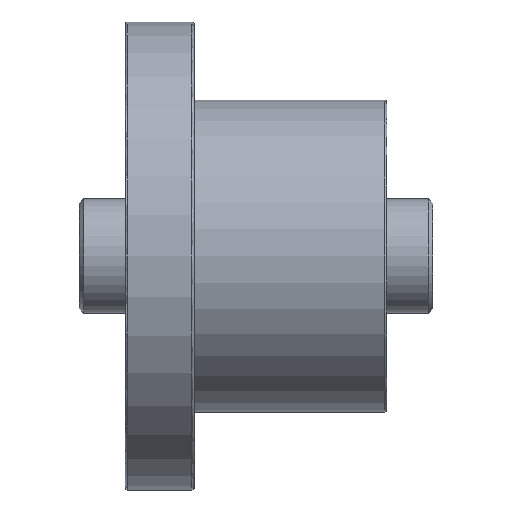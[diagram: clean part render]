
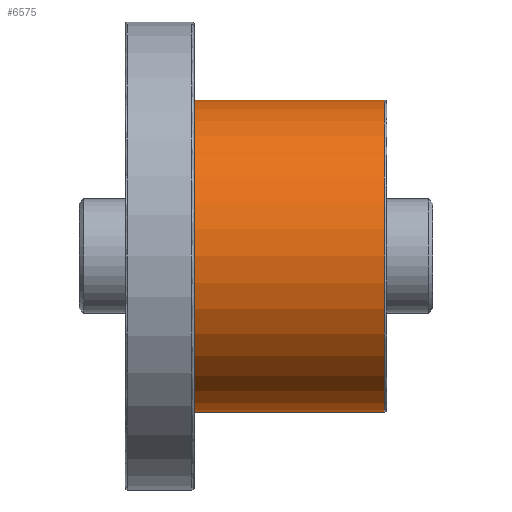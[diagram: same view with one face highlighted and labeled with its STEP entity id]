
A CAD part, front view. The second image highlights one B-rep face of the part: STEP entity #6575.
In plain terms, the highlighted cylindrical face has radius 34 mm (diameter 68 mm), a partial arc.
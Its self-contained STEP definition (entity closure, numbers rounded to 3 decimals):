
#148 = EDGE_LOOP ( 'NONE', ( #6923, #1546, #7833, #2690 ) ) ;
#288 = CARTESIAN_POINT ( 'NONE',  ( 57., 0., 34. ) ) ;
#715 = CARTESIAN_POINT ( 'NONE',  ( 15., 0., 0. ) ) ;
#1200 = VERTEX_POINT ( 'NONE', #4371 ) ;
#1370 = CIRCLE ( 'NONE', #6957, 34. ) ;
#1403 = EDGE_CURVE ( 'NONE', #7361, #5536, #2834, .T. ) ;
#1546 = ORIENTED_EDGE ( 'NONE', *, *, #2314, .T. ) ;
#2314 = EDGE_CURVE ( 'NONE', #1200, #7361, #1370, .T. ) ;
#2690 = ORIENTED_EDGE ( 'NONE', *, *, #3195, .F. ) ;
#2771 = LINE ( 'NONE', #6892, #6365 ) ;
#2834 = LINE ( 'NONE', #288, #6434 ) ;
#3059 = CARTESIAN_POINT ( 'NONE',  ( 57., 0., 0. ) ) ;
#3195 = EDGE_CURVE ( 'NONE', #3802, #5536, #6452, .T. ) ;
#3285 = DIRECTION ( 'NONE',  ( 0., 0., 1. ) ) ;
#3315 = DIRECTION ( 'NONE',  ( -1., 0., 0. ) ) ;
#3540 = CARTESIAN_POINT ( 'NONE',  ( 56.5, 0., 34. ) ) ;
#3802 = VERTEX_POINT ( 'NONE', #5729 ) ;
#3928 = DIRECTION ( 'NONE',  ( 0., 0., 1. ) ) ;
#4371 = CARTESIAN_POINT ( 'NONE',  ( 56.5, 0., -34. ) ) ;
#4751 = CARTESIAN_POINT ( 'NONE',  ( 15., 0., 34. ) ) ;
#4826 = AXIS2_PLACEMENT_3D ( 'NONE', #715, #5769, #3928 ) ;
#5028 = DIRECTION ( 'NONE',  ( -1., 0., 0. ) ) ;
#5178 = AXIS2_PLACEMENT_3D ( 'NONE', #3059, #6155, #5531 ) ;
#5240 = EDGE_CURVE ( 'NONE', #1200, #3802, #2771, .T. ) ;
#5531 = DIRECTION ( 'NONE',  ( 0., 0., 1. ) ) ;
#5536 = VERTEX_POINT ( 'NONE', #4751 ) ;
#5729 = CARTESIAN_POINT ( 'NONE',  ( 15., 0., -34. ) ) ;
#5769 = DIRECTION ( 'NONE',  ( -1., 0., 0. ) ) ;
#5920 = DIRECTION ( 'NONE',  ( -1., 0., 0. ) ) ;
#6155 = DIRECTION ( 'NONE',  ( -1., 0., 0. ) ) ;
#6365 = VECTOR ( 'NONE', #5028, 1000. ) ;
#6434 = VECTOR ( 'NONE', #5920, 1000. ) ;
#6452 = CIRCLE ( 'NONE', #4826, 34. ) ;
#6575 = ADVANCED_FACE ( 'NONE', ( #7922 ), #7446, .T. ) ;
#6892 = CARTESIAN_POINT ( 'NONE',  ( 57., 0., -34. ) ) ;
#6923 = ORIENTED_EDGE ( 'NONE', *, *, #5240, .F. ) ;
#6957 = AXIS2_PLACEMENT_3D ( 'NONE', #6988, #3315, #3285 ) ;
#6988 = CARTESIAN_POINT ( 'NONE',  ( 56.5, 0., 0. ) ) ;
#7361 = VERTEX_POINT ( 'NONE', #3540 ) ;
#7446 = CYLINDRICAL_SURFACE ( 'NONE', #5178, 34. ) ;
#7833 = ORIENTED_EDGE ( 'NONE', *, *, #1403, .T. ) ;
#7922 = FACE_OUTER_BOUND ( 'NONE', #148, .T. ) ;
